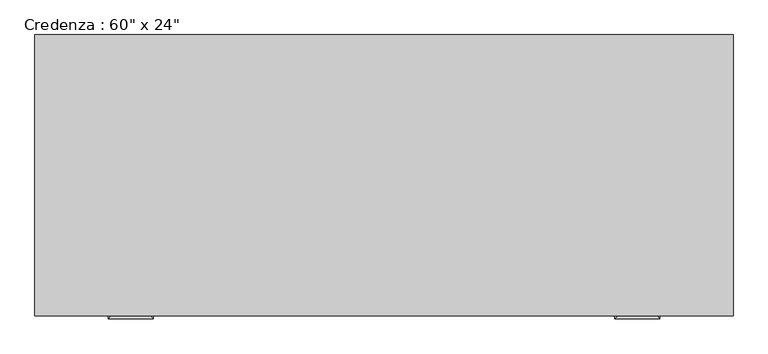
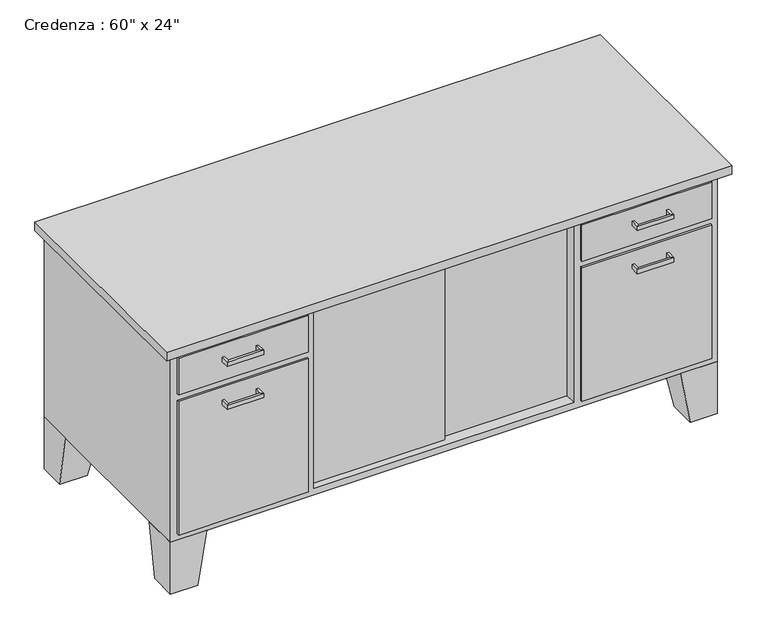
"""IFC4 building model written with IfcOpenShell, lengths in millimetres: furniture geometry."""

from ifc_helpers import new_model, si_unit, frame, origin, place, context, project, spatial, polyline, outline, extrude, faceted_brep, source, transform, mapped, element, save


def furniture_894c625b(model_context):
    return source(origin(), model_context, "Body", "SolidModel", [
        extrude(outline(polyline([(455.5023176, -267.2714583), (46.8442623, -267.2714583), (46.8442623, -254.5714583), (455.5023176, -254.5714583), (455.5023176, -267.2714583)])), frame((0.0, 0.0, 171.45), z_axis=(0.0, 0.0, 1.0), x_axis=(1.0, 0.0, 0.0)), (0.0, 0.0, 1.0), 520.7),
        extrude(outline(polyline([(73.6254475, -279.9714583), (-302.4057377, -279.9714583), (-302.4057377, -267.2714583), (73.6254475, -267.2714583), (73.6254475, -279.9714583)])), frame((0.0, 0.0, 171.45), z_axis=(0.0, 0.0, 1.0), x_axis=(1.0, 0.0, 0.0)), (0.0, 0.0, 1.0), 520.7),
        faceted_brep([(719.9442623, 309.3803279, 152.4), (719.9442623, 207.7803279, 152.4), (821.5442623, 207.7803279, 152.4), (821.5442623, 309.3803279, 152.4), (745.3442623, 309.3803279, 0.0), (821.5442623, 309.3803279, 0.0), (821.5442623, 233.1803279, 0.0), (745.3442623, 233.1803279, 0.0)], [[[0, 1, 2, 3]], [[4, 5, 6, 7]], [[4, 7, 1, 0]], [[7, 6, 2, 1]], [[6, 5, 3, 2]], [[5, 4, 0, 3]]]),
        extrude(outline(polyline([(802.4942623, -306.5696721), (440.5442623, -306.5696721), (440.5442623, -300.2196721), (802.4942623, -300.2196721), (802.4942623, -306.5696721)])), frame((0.0, 0.0, 584.2), z_axis=(0.0, 0.0, 1.0), x_axis=(1.0, 0.0, 0.0)), (0.0, 0.0, 1.0), 107.95),
        extrude(outline(polyline([(802.4942623, -306.5696721), (440.5442623, -306.5696721), (440.5442623, -300.2196721), (802.4942623, -300.2196721), (802.4942623, -306.5696721)])), frame((0.0, 0.0, 171.45), z_axis=(0.0, 0.0, 1.0), x_axis=(1.0, 0.0, 0.0)), (0.0, 0.0, 1.0), 393.7),
        extrude(outline(polyline([(-321.4557377, -306.5696721), (-683.4057377, -306.5696721), (-683.4057377, -300.2196721), (-321.4557377, -300.2196721), (-321.4557377, -306.5696721)])), frame((0.0, 0.0, 584.2), z_axis=(0.0, 0.0, 1.0), x_axis=(1.0, 0.0, 0.0)), (0.0, 0.0, 1.0), 107.95),
        extrude(outline(polyline([(-321.4557377, -306.5696721), (-683.4057377, -306.5696721), (-683.4057377, -300.2196721), (-321.4557377, -300.2196721), (-321.4557377, -306.5696721)])), frame((0.0, 0.0, 171.45), z_axis=(0.0, 0.0, 1.0), x_axis=(1.0, 0.0, 0.0)), (0.0, 0.0, 1.0), 393.7),
        faceted_brep([(-600.8557377, -300.2196721, 152.4), (-600.8557377, -198.6196721, 152.4), (-702.4557377, -198.6196721, 152.4), (-702.4557377, -300.2196721, 152.4), (-626.2557377, -300.2196721, 0.0), (-702.4557377, -300.2196721, 0.0), (-702.4557377, -224.0196721, 0.0), (-626.2557377, -224.0196721, 0.0)], [[[0, 1, 2, 3]], [[4, 5, 6, 7]], [[4, 7, 1, 0]], [[7, 6, 2, 1]], [[6, 5, 3, 2]], [[5, 4, 0, 3]]]),
        faceted_brep([(-600.8557377, 309.3803279, 152.4), (-702.4557377, 309.3803279, 152.4), (-702.4557377, 207.7803279, 152.4), (-600.8557377, 207.7803279, 152.4), (-626.2557377, 309.3803279, 0.0), (-626.2557377, 233.1803279, 0.0), (-702.4557377, 233.1803279, 0.0), (-702.4557377, 309.3803279, 0.0)], [[[0, 1, 2, 3]], [[4, 5, 6, 7]], [[4, 7, 1, 0]], [[7, 6, 2, 1]], [[6, 5, 3, 2]], [[5, 4, 0, 3]]]),
        faceted_brep([(719.9442623, -300.2196721, 152.4), (821.5442623, -300.2196721, 152.4), (821.5442623, -198.6196721, 152.4), (719.9442623, -198.6196721, 152.4), (745.3442623, -300.2196721, 0.0), (745.3442623, -224.0196721, 0.0), (821.5442623, -224.0196721, 0.0), (821.5442623, -300.2196721, 0.0)], [[[0, 1, 2, 3]], [[4, 5, 6, 7]], [[4, 7, 1, 0]], [[7, 6, 2, 1]], [[6, 5, 3, 2]], [[5, 4, 0, 3]]]),
        faceted_brep([(821.5442623, 309.3803279, 711.2), (-702.4557377, 309.3803279, 711.2), (-702.4557377, -300.2196721, 711.2), (821.5442623, -300.2196721, 711.2), (821.5442623, 309.3803279, 152.4), (821.5442623, -300.2196721, 152.4), (-702.4557377, -300.2196721, 152.4), (-702.4557377, 309.3803279, 152.4), (-302.4057377, -300.2196721, 692.15), (421.4942623, -300.2196721, 692.15), (421.4942623, -300.2196721, 171.45), (-302.4057377, -300.2196721, 171.45), (421.4942623, 290.3303279, 692.15), (-302.4057377, 290.3303279, 692.15), (-302.4057377, 290.3303279, 171.45), (421.4942623, 290.3303279, 171.45)], [[[0, 1, 2, 3]], [[4, 5, 6, 7]], [[1, 0, 4, 7]], [[2, 1, 7, 6]], [[3, 2, 6, 5], [8, 9, 10, 11]], [[0, 3, 5, 4]], [[12, 13, 14, 15]], [[13, 12, 9, 8]], [[14, 13, 8, 11]], [[15, 14, 11, 10]], [[12, 15, 10, 9]]]),
        extrude(outline(polyline([(846.9442623, 309.3803279), (846.9442623, -325.6196721), (-727.8557377, -325.6196721), (-727.8557377, 309.3803279), (846.9442623, 309.3803279)])), frame((0.0, 0.0, 711.2), z_axis=(0.0, 0.0, 1.0), x_axis=(1.0, 0.0, 0.0)), (0.0, 0.0, 1.0), 25.4),
        faceted_brep([(-556.4057377, -306.5696721, 527.05), (-556.4057377, -306.5696721, 514.35), (-562.7557377, -306.5696721, 514.35), (-562.7557377, -306.5696721, 527.05), (-556.4057377, -325.6196721, 527.05), (-556.4057377, -325.6196721, 514.35), (-562.7557377, -331.9696721, 514.35), (-562.7557377, -331.9696721, 527.05), (-467.5057377, -325.6196721, 527.05), (-467.5057377, -325.6196721, 514.35), (-461.1557377, -331.9696721, 514.35), (-461.1557377, -331.9696721, 527.05), (-467.5057377, -306.5696721, 527.05), (-461.1557377, -306.5696721, 527.05), (-461.1557377, -306.5696721, 514.35), (-467.5057377, -306.5696721, 514.35)], [[[0, 1, 2, 3]], [[1, 0, 4, 5]], [[2, 1, 5, 6]], [[3, 2, 6, 7]], [[0, 3, 7, 4]], [[5, 4, 8, 9]], [[6, 5, 9, 10]], [[7, 6, 10, 11]], [[4, 7, 11, 8]], [[12, 13, 14, 15]], [[9, 8, 12, 15]], [[10, 9, 15, 14]], [[11, 10, 14, 13]], [[8, 11, 13, 12]]]),
        faceted_brep([(-556.4057377, -306.5696721, 654.05), (-556.4057377, -306.5696721, 641.35), (-562.7557377, -306.5696721, 641.35), (-562.7557377, -306.5696721, 654.05), (-556.4057377, -325.6196721, 654.05), (-556.4057377, -325.6196721, 641.35), (-562.7557377, -331.9696721, 641.35), (-562.7557377, -331.9696721, 654.05), (-467.5057377, -325.6196721, 654.05), (-467.5057377, -325.6196721, 641.35), (-461.1557377, -331.9696721, 641.35), (-461.1557377, -331.9696721, 654.05), (-467.5057377, -306.5696721, 654.05), (-461.1557377, -306.5696721, 654.05), (-461.1557377, -306.5696721, 641.35), (-467.5057377, -306.5696721, 641.35)], [[[0, 1, 2, 3]], [[1, 0, 4, 5]], [[2, 1, 5, 6]], [[3, 2, 6, 7]], [[0, 3, 7, 4]], [[5, 4, 8, 9]], [[6, 5, 9, 10]], [[7, 6, 10, 11]], [[4, 7, 11, 8]], [[12, 13, 14, 15]], [[9, 8, 12, 15]], [[10, 9, 15, 14]], [[11, 10, 14, 13]], [[8, 11, 13, 12]]]),
        faceted_brep([(586.5942623, -306.5696721, 654.1373112), (586.5942623, -306.5696721, 641.4373112), (580.2442623, -306.5696721, 641.4373112), (580.2442623, -306.5696721, 654.1373112), (586.5942623, -325.6196721, 654.1373112), (586.5942623, -325.6196721, 641.4373112), (580.2442623, -331.9696721, 641.4373112), (580.2442623, -331.9696721, 654.1373112), (675.4942623, -325.6196721, 654.1373112), (675.4942623, -325.6196721, 641.4373112), (681.8442623, -331.9696721, 641.4373112), (681.8442623, -331.9696721, 654.1373112), (675.4942623, -306.5696721, 654.1373112), (681.8442623, -306.5696721, 654.1373112), (681.8442623, -306.5696721, 641.4373112), (675.4942623, -306.5696721, 641.4373112)], [[[0, 1, 2, 3]], [[1, 0, 4, 5]], [[2, 1, 5, 6]], [[3, 2, 6, 7]], [[0, 3, 7, 4]], [[5, 4, 8, 9]], [[6, 5, 9, 10]], [[7, 6, 10, 11]], [[4, 7, 11, 8]], [[12, 13, 14, 15]], [[9, 8, 12, 15]], [[10, 9, 15, 14]], [[11, 10, 14, 13]], [[8, 11, 13, 12]]]),
        faceted_brep([(586.5942623, -306.5696721, 527.05), (586.5942623, -306.5696721, 514.35), (580.2442623, -306.5696721, 514.35), (580.2442623, -306.5696721, 527.05), (586.5942623, -325.6196721, 527.05), (586.5942623, -325.6196721, 514.35), (580.2442623, -331.9696721, 514.35), (580.2442623, -331.9696721, 527.05), (675.4942623, -325.6196721, 527.05), (675.4942623, -325.6196721, 514.35), (681.8442623, -331.9696721, 514.35), (681.8442623, -331.9696721, 527.05), (675.4942623, -306.5696721, 527.05), (681.8442623, -306.5696721, 527.05), (681.8442623, -306.5696721, 514.35), (675.4942623, -306.5696721, 514.35)], [[[0, 1, 2, 3]], [[1, 0, 4, 5]], [[2, 1, 5, 6]], [[3, 2, 6, 7]], [[0, 3, 7, 4]], [[5, 4, 8, 9]], [[6, 5, 9, 10]], [[7, 6, 10, 11]], [[4, 7, 11, 8]], [[12, 13, 14, 15]], [[9, 8, 12, 15]], [[10, 9, 15, 14]], [[11, 10, 14, 13]], [[8, 11, 13, 12]]]),
    ])


if __name__ == "__main__":
    model = new_model("IFC4")
    model_context = context("Model", 3, world=origin())
    ifc_project = project(units=[si_unit("LENGTHUNIT", "METRE", prefix="MILLI")], contexts=[model_context])
    site = spatial("IfcSite", under=ifc_project)
    building = spatial("IfcBuilding", under=site)
    placement = place(None, origin())
    furniture_shape = furniture_894c625b(model_context)
    element("IfcFurniture", 1, ObjectType="Credenza : 60\" x 24\"", at=placement, inside=building, context=model_context, shape_type="MappedRepresentation", body=[
        mapped(furniture_shape, transform((0.0, 0.0, 0.0), x_axis=(1.0, 0.0, 0.0), y_axis=(0.0, 1.0, 0.0), z_axis=(0.0, 0.0, 1.0))),
    ])
    save(model, "model.ifc")
